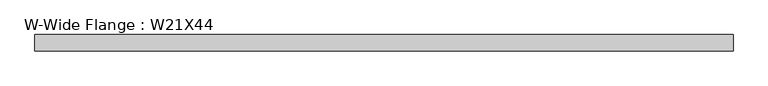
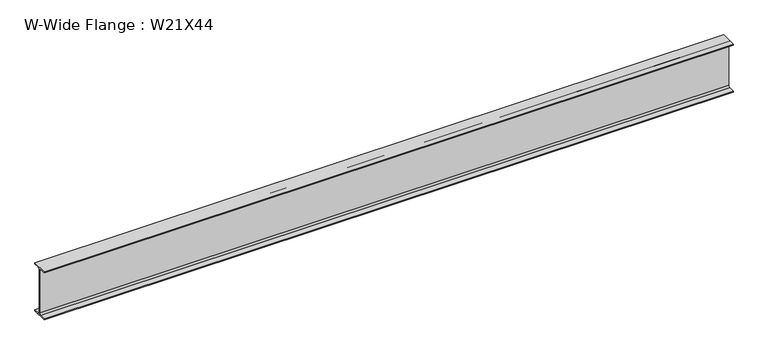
"""IFC4 building model written with IfcOpenShell, lengths in millimetres: beam geometry, W-Wide Flange : W21X44."""

from ifc_helpers import new_model, si_unit, point, frame, frame_2d, origin, place, context, project, spatial, polyline, circle_curve, trimmed, segment, composite_curve, outline, extrude, source, transform, mapped, element, save


def w_wide_flange_w21x44_84bfd685(model_context):
    return source(origin(), model_context, "Body", "SweptSolid", [
        extrude(outline(composite_curve([segment(polyline([(82.55, -251.46), (82.55, -262.89), (-82.55, -262.89), (-82.55, -251.46), (-21.59, -251.46)]), True, "CONTINUOUS"), segment(trimmed(circle_curve(frame_2d((-21.59, -234.315)), 17.145), [point((-21.59, -251.46))], [point((-4.445, -234.315))], True, "CARTESIAN"), True, "CONTINUOUS"), segment(polyline([(-4.445, -234.315), (-4.445, 234.315)]), True, "CONTINUOUS"), segment(trimmed(circle_curve(frame_2d((-21.59, 234.315)), 17.145), [point((-4.445, 234.315))], [point((-21.59, 251.46))], True, "CARTESIAN"), True, "CONTINUOUS"), segment(polyline([(-21.59, 251.46), (-82.55, 251.46), (-82.55, 262.89), (82.55, 262.89), (82.55, 251.46), (21.59, 251.46)]), True, "CONTINUOUS"), segment(trimmed(circle_curve(frame_2d((21.59, 234.315)), 17.145), [point((21.59, 251.46))], [point((4.445, 234.315))], True, "CARTESIAN"), True, "CONTINUOUS"), segment(polyline([(4.445, 234.315), (4.445, -234.315)]), True, "CONTINUOUS"), segment(trimmed(circle_curve(frame_2d((21.59, -234.315)), 17.145), [point((4.445, -234.315))], [point((21.59, -251.46))], True, "CARTESIAN"), True, "CONTINUOUS"), segment(polyline([(21.59, -251.46), (82.55, -251.46)]), True, "CONTINUOUS")], self_intersect=False)), frame((-3511.5003906, 0.0, 0.0), z_axis=(1.0, 0.0, 0.0), x_axis=(0.0, 1.0, 0.0)), (0.0, 0.0, 1.0), 7123.9836406),
    ])


if __name__ == "__main__":
    model = new_model("IFC4")
    model_context = context("Model", 3, world=origin())
    ifc_project = project(units=[si_unit("LENGTHUNIT", "METRE", prefix="MILLI")], contexts=[model_context])
    site = spatial("IfcSite", under=ifc_project)
    building = spatial("IfcBuilding", under=site)
    placement = place(None, origin())
    w_wide_flange_w21x44_shape = w_wide_flange_w21x44_84bfd685(model_context)
    element("IfcBeam", 1, ObjectType="W-Wide Flange : W21X44", at=placement, inside=building, context=model_context, shape_type="MappedRepresentation", body=[
        mapped(w_wide_flange_w21x44_shape, transform((0.0, 0.0, 0.0), x_axis=(1.0, 0.0, 0.0), y_axis=(0.0, 1.0, 0.0), z_axis=(0.0, 0.0, 1.0))),
    ])
    save(model, "model.ifc")
